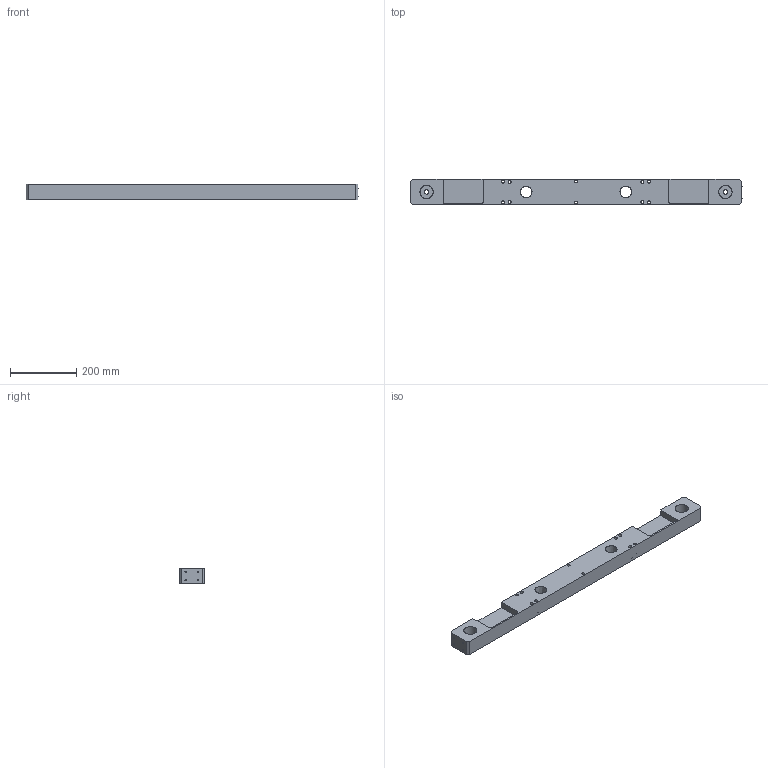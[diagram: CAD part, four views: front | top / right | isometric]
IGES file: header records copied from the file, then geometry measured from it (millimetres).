
Start section: File produced by SOLID-CONCEP (Trim Surfaces - Entity 144)
Global section: file name: 13.igs; native system: SOLID-CONCEPT V.5.xx; preprocessor: SOLID-CONCEPT-IGES-OUT v2.00; date: 100220.132853; units: millimetre
Bounding box: 1000 x 78 x 48 mm (x, y, z)
Surface area: 302735.9 mm2 (no closed solid volume)
Topology: 0 solids, 0 shells, 94 faces, 2314 edges, 2206 vertices
Faces by surface type: revolution 70, bspline 24
